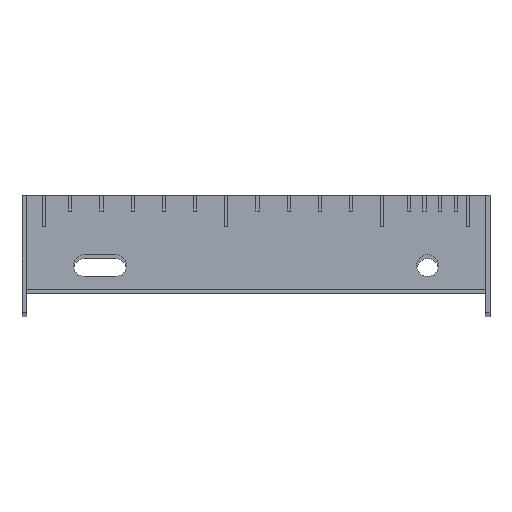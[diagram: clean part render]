
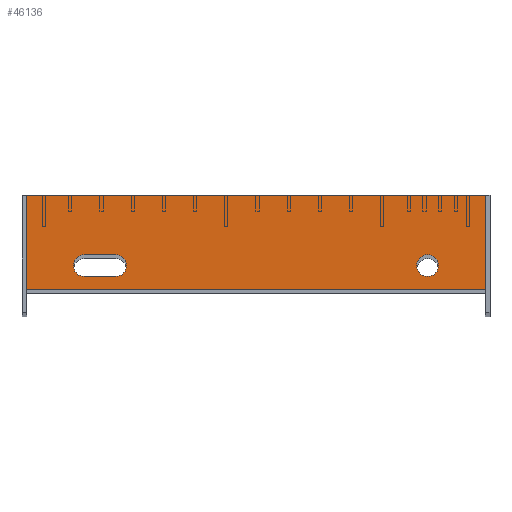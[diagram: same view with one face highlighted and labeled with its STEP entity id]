
A CAD part, top view. The second image highlights one B-rep face of the part: STEP entity #46136.
In plain terms, the highlighted planar face has unit normal (0, 0, 1).
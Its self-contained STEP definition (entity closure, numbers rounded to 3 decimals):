
#43 = LINE ( 'NONE', #49479, #82354 ) ;
#507 = AXIS2_PLACEMENT_3D ( 'NONE', #61012, #45394, #101064 ) ;
#1274 = ORIENTED_EDGE ( 'NONE', *, *, #72768, .F. ) ;
#2276 = CIRCLE ( 'NONE', #4619, 7. ) ;
#2344 = VERTEX_POINT ( 'NONE', #73338 ) ;
#3240 = VERTEX_POINT ( 'NONE', #20633 ) ;
#3830 = DIRECTION ( 'NONE',  ( 1., 0., 0. ) ) ;
#4441 = CIRCLE ( 'NONE', #88451, 7. ) ;
#4589 = EDGE_CURVE ( 'NONE', #74104, #55018, #43, .T. ) ;
#4619 = AXIS2_PLACEMENT_3D ( 'NONE', #10634, #66393, #18683 ) ;
#5404 = CARTESIAN_POINT ( 'NONE',  ( 0., 0., 0. ) ) ;
#7020 = ORIENTED_EDGE ( 'NONE', *, *, #28307, .F. ) ;
#7814 = CARTESIAN_POINT ( 'NONE',  ( 0., 0., 0. ) ) ;
#10634 = CARTESIAN_POINT ( 'NONE',  ( 257., 15., 0. ) ) ;
#12926 = VECTOR ( 'NONE', #82880, 1000. ) ;
#15993 = ORIENTED_EDGE ( 'NONE', *, *, #81475, .T. ) ;
#17155 = EDGE_CURVE ( 'NONE', #3240, #74104, #81009, .T. ) ;
#17572 = LINE ( 'NONE', #52120, #78614 ) ;
#18683 = DIRECTION ( 'NONE',  ( 1., 0., 0. ) ) ;
#20633 = CARTESIAN_POINT ( 'NONE',  ( 37., 22., 0. ) ) ;
#28307 = EDGE_CURVE ( 'NONE', #99733, #99733, #2276, .T. ) ;
#28631 = ORIENTED_EDGE ( 'NONE', *, *, #17155, .F. ) ;
#28675 = FACE_BOUND ( 'NONE', #63528, .T. ) ;
#28803 = EDGE_LOOP ( 'NONE', ( #58131, #15993, #41985, #99080 ) ) ;
#29081 = LINE ( 'NONE', #84608, #68931 ) ;
#29294 = DIRECTION ( 'NONE',  ( 0., 0., 1. ) ) ;
#31203 = FACE_BOUND ( 'NONE', #38878, .T. ) ;
#31694 = LINE ( 'NONE', #35244, #12926 ) ;
#32199 = CARTESIAN_POINT ( 'NONE',  ( 0., 0., 0. ) ) ;
#35244 = CARTESIAN_POINT ( 'NONE',  ( 294., 0., 0. ) ) ;
#35985 = VECTOR ( 'NONE', #47626, 1000. ) ;
#38878 = EDGE_LOOP ( 'NONE', ( #7020 ) ) ;
#41985 = ORIENTED_EDGE ( 'NONE', *, *, #78052, .T. ) ;
#42935 = CARTESIAN_POINT ( 'NONE',  ( 57., 22., 0. ) ) ;
#44985 = DIRECTION ( 'NONE',  ( -1., 0., 0. ) ) ;
#45394 = DIRECTION ( 'NONE',  ( 0., 0., -1. ) ) ;
#46136 = ADVANCED_FACE ( 'NONE', ( #28675, #31203, #92170 ), #92995, .F. ) ;
#47626 = DIRECTION ( 'NONE',  ( 0., -1., 0. ) ) ;
#49479 = CARTESIAN_POINT ( 'NONE',  ( 57., 8., 0. ) ) ;
#51624 = DIRECTION ( 'NONE',  ( 0., 0., 1. ) ) ;
#52120 = CARTESIAN_POINT ( 'NONE',  ( 57., 22., 0. ) ) ;
#52228 = VERTEX_POINT ( 'NONE', #42935 ) ;
#55018 = VERTEX_POINT ( 'NONE', #58089 ) ;
#56184 = DIRECTION ( 'NONE',  ( 1., 0., 0. ) ) ;
#58089 = CARTESIAN_POINT ( 'NONE',  ( 57., 8., 0. ) ) ;
#58131 = ORIENTED_EDGE ( 'NONE', *, *, #97383, .T. ) ;
#61012 = CARTESIAN_POINT ( 'NONE',  ( 0., 0., 0. ) ) ;
#62172 = VERTEX_POINT ( 'NONE', #88806 ) ;
#63528 = EDGE_LOOP ( 'NONE', ( #1274, #88062, #73985, #28631 ) ) ;
#66393 = DIRECTION ( 'NONE',  ( 0., 0., 1. ) ) ;
#68186 = CARTESIAN_POINT ( 'NONE',  ( 264., 15., 0. ) ) ;
#68931 = VECTOR ( 'NONE', #44985, 1000. ) ;
#69655 = AXIS2_PLACEMENT_3D ( 'NONE', #76948, #29294, #84976 ) ;
#72768 = EDGE_CURVE ( 'NONE', #52228, #3240, #17572, .T. ) ;
#72867 = VERTEX_POINT ( 'NONE', #100831 ) ;
#73338 = CARTESIAN_POINT ( 'NONE',  ( 294., 60., 0. ) ) ;
#73578 = CARTESIAN_POINT ( 'NONE',  ( 37., 8., 0. ) ) ;
#73985 = ORIENTED_EDGE ( 'NONE', *, *, #4589, .F. ) ;
#74104 = VERTEX_POINT ( 'NONE', #73578 ) ;
#76948 = CARTESIAN_POINT ( 'NONE',  ( 37., 15., 0. ) ) ;
#78052 = EDGE_CURVE ( 'NONE', #72867, #2344, #31694, .T. ) ;
#78614 = VECTOR ( 'NONE', #84102, 1000. ) ;
#79978 = EDGE_CURVE ( 'NONE', #55018, #52228, #4441, .T. ) ;
#80718 = VERTEX_POINT ( 'NONE', #5404 ) ;
#81009 = CIRCLE ( 'NONE', #69655, 7. ) ;
#81475 = EDGE_CURVE ( 'NONE', #80718, #72867, #101349, .T. ) ;
#82354 = VECTOR ( 'NONE', #89451, 1000. ) ;
#82880 = DIRECTION ( 'NONE',  ( 0., 1., 0. ) ) ;
#84102 = DIRECTION ( 'NONE',  ( -1., 0., 0. ) ) ;
#84608 = CARTESIAN_POINT ( 'NONE',  ( 0., 60., 0. ) ) ;
#84976 = DIRECTION ( 'NONE',  ( 1., 0., 0. ) ) ;
#85777 = LINE ( 'NONE', #7814, #35985 ) ;
#88062 = ORIENTED_EDGE ( 'NONE', *, *, #79978, .F. ) ;
#88451 = AXIS2_PLACEMENT_3D ( 'NONE', #99305, #51624, #3830 ) ;
#88806 = CARTESIAN_POINT ( 'NONE',  ( 0., 60., 0. ) ) ;
#89451 = DIRECTION ( 'NONE',  ( 1., 0., 0. ) ) ;
#92170 = FACE_OUTER_BOUND ( 'NONE', #28803, .T. ) ;
#92995 = PLANE ( 'NONE',  #507 ) ;
#97383 = EDGE_CURVE ( 'NONE', #62172, #80718, #85777, .T. ) ;
#98837 = VECTOR ( 'NONE', #56184, 1000. ) ;
#99080 = ORIENTED_EDGE ( 'NONE', *, *, #100916, .T. ) ;
#99305 = CARTESIAN_POINT ( 'NONE',  ( 57., 15., 0. ) ) ;
#99733 = VERTEX_POINT ( 'NONE', #68186 ) ;
#100831 = CARTESIAN_POINT ( 'NONE',  ( 294., 0., 0. ) ) ;
#100916 = EDGE_CURVE ( 'NONE', #2344, #62172, #29081, .T. ) ;
#101064 = DIRECTION ( 'NONE',  ( -1., 0., 0. ) ) ;
#101349 = LINE ( 'NONE', #32199, #98837 ) ;
